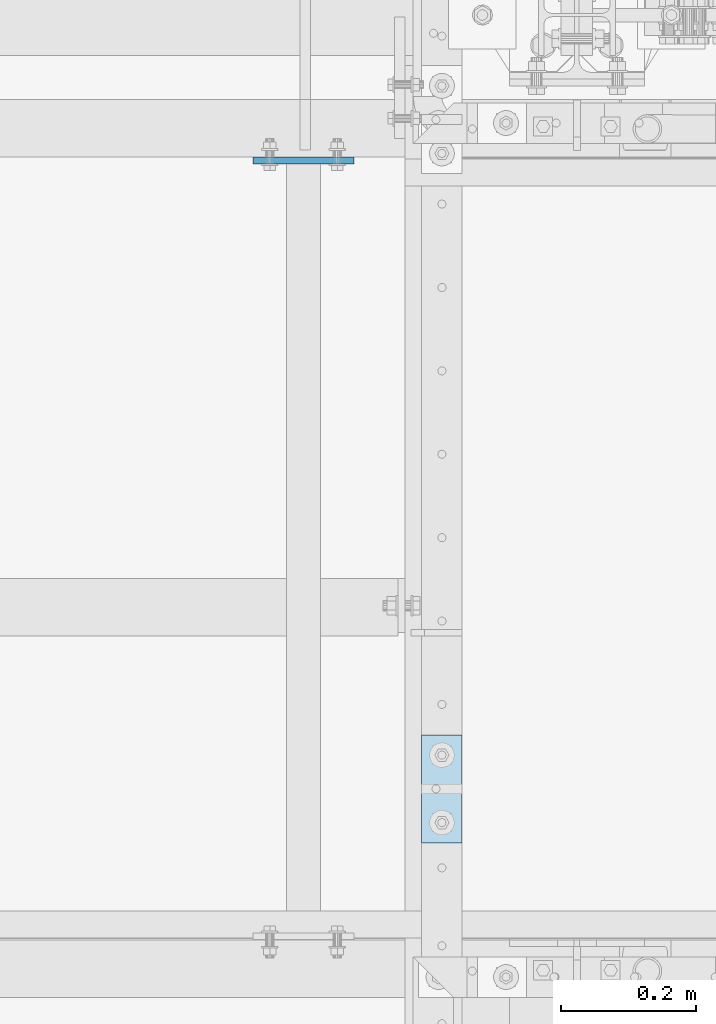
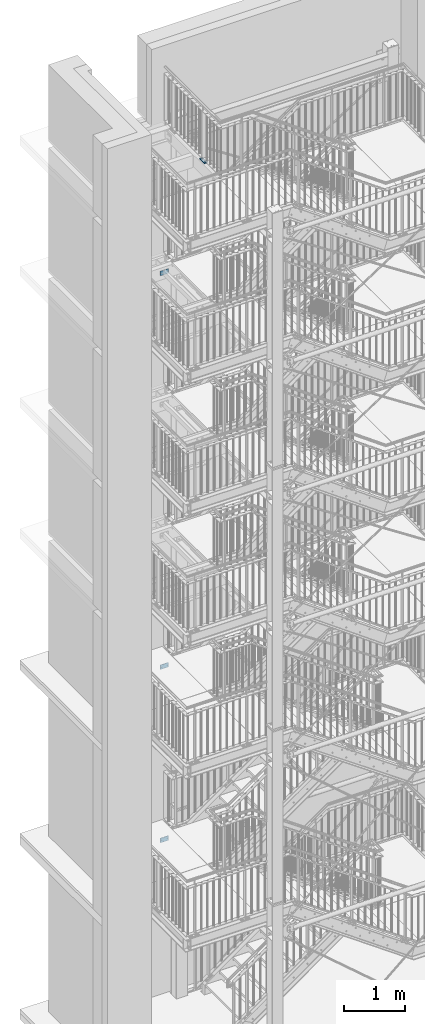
# One storey, part 177 of 817: 4 plates, 14 openings.
"""IFC2X3 building model written with IfcOpenShell, lengths in millimetres."""

from ifc_helpers import new_model, entity, si_unit, converted_unit, point, frame, frame_2d, origin, origin_with_axes, origin_2d_with_axis, place, context, project, spatial, polyline, circle_curve, line_curve, trimmed, segment, composite_curve, circle, outline, extrude, material, layer, layer_set, element, save


model = new_model("IFC2X3")

# Units and contexts
model_context = context("Model", 3, precision=1e-09, world=origin_with_axes())
ifc_project = project(units=[si_unit("LENGTHUNIT", "METRE", prefix="MILLI"), si_unit("AREAUNIT", "SQUARE_METRE"), si_unit("VOLUMEUNIT", "CUBIC_METRE"), converted_unit("PLANEANGLEUNIT", "DEGREE", entity("IfcPlaneAngleMeasure", 0.01745329), si_unit("PLANEANGLEUNIT", "RADIAN"), dimensions=[0, 0, 0, 0, 0, 0, 0])], contexts=[model_context])

# Site, building, storey
site_placement = place(None, origin_with_axes())
site = spatial("IfcSite", under=ifc_project, at=site_placement, Name="Cnopf'sche Kinderklinik", CompositionType="ELEMENT")
building_placement = place(site_placement, origin_with_axes())
building = spatial("IfcBuilding", under=site, at=building_placement, Name="Struktur 1", CompositionType="ELEMENT")
storey_placement = place(building_placement, origin_with_axes())
storey = spatial("IfcBuildingStorey", under=building, at=storey_placement, Name="Default Storey", CompositionType="ELEMENT", Elevation=0.0)

# Plate, openings
ifc_material = material(Name="S235JR")
ifc_layer_1 = layer(ifc_material, 10.0)
ifc_layer_set_1 = layer_set([ifc_layer_1], Name="S235JR")
plate_1_placement = place(None, frame((4451.713402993, 7306.236971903, 7220.0), z_axis=(0.0, -1.0, 0.0), x_axis=(1.0, 0.0, 0.0)))
plate_1 = element("IfcPlate", 1, at=plate_1_placement, inside=storey, material=ifc_layer_set_1, Name="-", ObjectType="-", context=model_context, shape_type="SweptSolid", body=[
    extrude(outline(polyline([(-75.0, -45.0), (75.0, -45.0), (75.0, 45.0), (-75.0, 45.0), (-75.0, -45.0)])), origin_with_axes(), (0.0, 0.0, 1.0), 10.0),
])
opening_1_placement = place(plate_1_placement, frame((-10.5, -33.0, -0.5), z_axis=(0.0, 0.0, 1.0), x_axis=(0.0, -1.0, 0.0)))
element("IfcOpeningElement", 2, at=opening_1_placement, cuts=plate_1, ObjectType="Opening", context=model_context, shape_type="SweptSolid", body=[
    extrude(circle(Radius=6.001, at=origin_2d_with_axis()), origin(), (0.0, 0.0, 1.0), 11.0),
])
opening_2_placement = place(plate_1_placement, frame((-10.5, 33.0, -0.5), z_axis=(0.0, 0.0, 1.0), x_axis=(0.0, -1.0, 0.0)))
element("IfcOpeningElement", 3, at=opening_2_placement, cuts=plate_1, ObjectType="Opening", context=model_context, shape_type="SweptSolid", body=[
    extrude(circle(Radius=6.001, at=origin_2d_with_axis()), origin(), (0.0, 0.0, 1.0), 11.0),
])
opening_3_placement = place(plate_1_placement, frame((0.0, 0.0, -0.5), z_axis=(0.0, 0.0, 1.0), x_axis=(1.0, 0.0, 0.0)))
element("IfcOpeningElement", 4, at=opening_3_placement, cuts=plate_1, ObjectType="Opening", context=model_context, shape_type="SweptSolid", body=[
    extrude(circle(Radius=7.001, at=frame_2d((50.0, 0.0), x_axis=(1.0, 0.0))), origin(), (0.0, 0.0, 1.0), 11.0),
])
opening_4_placement = place(plate_1_placement, frame((0.0, 0.0, -0.5), z_axis=(0.0, 0.0, 1.0), x_axis=(1.0, 0.0, 0.0)))
element("IfcOpeningElement", 5, at=opening_4_placement, cuts=plate_1, ObjectType="Opening", context=model_context, shape_type="SweptSolid", body=[
    extrude(circle(Radius=7.001, at=frame_2d((-50.0, 0.0), x_axis=(1.0, 0.0))), origin(), (0.0, 0.0, 1.0), 11.0),
])

plate_2_placement = place(None, frame((4451.713402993, 7306.236971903, 3747.0), z_axis=(0.0, -1.0, 0.0), x_axis=(1.0, 0.0, 0.0)))
plate_2 = element("IfcPlate", 6, at=plate_2_placement, inside=storey, material=ifc_layer_set_1, Name="-", ObjectType="-", context=model_context, shape_type="SweptSolid", body=[
    extrude(outline(polyline([(-75.0, -45.0), (75.0, -45.0), (75.0, 45.0), (-75.0, 45.0), (-75.0, -45.0)])), origin_with_axes(), (0.0, 0.0, 1.0), 10.0),
])
opening_5_placement = place(plate_2_placement, frame((-10.5, -33.0, -0.5), z_axis=(0.0, 0.0, 1.0), x_axis=(0.0, -1.0, 0.0)))
element("IfcOpeningElement", 7, at=opening_5_placement, cuts=plate_2, ObjectType="Opening", context=model_context, shape_type="SweptSolid", body=[
    extrude(circle(Radius=6.001, at=origin_2d_with_axis()), origin(), (0.0, 0.0, 1.0), 11.0),
])
opening_6_placement = place(plate_2_placement, frame((-10.5, 33.0, -0.5), z_axis=(0.0, 0.0, 1.0), x_axis=(0.0, -1.0, 0.0)))
element("IfcOpeningElement", 8, at=opening_6_placement, cuts=plate_2, ObjectType="Opening", context=model_context, shape_type="SweptSolid", body=[
    extrude(circle(Radius=6.001, at=origin_2d_with_axis()), origin(), (0.0, 0.0, 1.0), 11.0),
])
opening_7_placement = place(plate_2_placement, frame((0.0, 0.0, -0.5), z_axis=(0.0, 0.0, 1.0), x_axis=(1.0, 0.0, 0.0)))
element("IfcOpeningElement", 9, at=opening_7_placement, cuts=plate_2, ObjectType="Opening", context=model_context, shape_type="SweptSolid", body=[
    extrude(circle(Radius=7.001, at=frame_2d((50.0, 0.0), x_axis=(1.0, 0.0))), origin(), (0.0, 0.0, 1.0), 11.0),
])
opening_8_placement = place(plate_2_placement, frame((0.0, 0.0, -0.5), z_axis=(0.0, 0.0, 1.0), x_axis=(1.0, 0.0, 0.0)))
element("IfcOpeningElement", 10, at=opening_8_placement, cuts=plate_2, ObjectType="Opening", context=model_context, shape_type="SweptSolid", body=[
    extrude(circle(Radius=7.001, at=frame_2d((-50.0, 0.0), x_axis=(1.0, 0.0))), origin(), (0.0, 0.0, 1.0), 11.0),
])

ifc_layer_2 = layer(ifc_material, 20.0)
ifc_layer_set_2 = layer_set([ifc_layer_2], Name="S235JR")
plate_3_placement = place(None, frame((4626.713402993, 6450.486721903, 17834.0), z_axis=(0.0, 0.0, 1.0), x_axis=(0.0, -1.0, 0.0)))
plate_3 = element("IfcPlate", 11, at=plate_3_placement, inside=storey, material=ifc_layer_set_2, Name="Plate#503", ObjectType="Plate#503", context=model_context, shape_type="SweptSolid", body=[
    extrude(outline(polyline([(0.0, 0.0), (160.0, 0.0), (160.0, 60.0), (0.0, 60.0), (0.0, 0.0)])), origin_with_axes(), (0.0, 0.0, 1.0), 20.0),
])
opening_9_placement = place(plate_3_placement, frame((38.0, 37.001, 20.5), z_axis=(0.0, 0.0, 1.0), x_axis=(-1.0, 0.0, 0.0)))
element("IfcOpeningElement", 12, at=opening_9_placement, cuts=plate_3, ObjectType="Opening", context=model_context, shape_type="SweptSolid", body=[
    extrude(outline(composite_curve([segment(trimmed(line_curve((0.0, 0.0), (1.0, 0.0), 16.0), [point((0.0, 0.0))], [point((16.0, 0.0))], True, "CARTESIAN"), True, "CONTINUOUS"), segment(trimmed(circle_curve(frame_2d((16.0, 7.001), x_axis=(1.0, 0.0)), 7.001), [point((16.0, 0.0))], [point((16.0, 14.002))], True, "CARTESIAN"), True, "CONTINUOUS"), segment(trimmed(line_curve((16.0, 14.002), (-1.0, 0.0), 16.0), [point((16.0, 14.002))], [point((0.0, 14.002))], True, "CARTESIAN"), True, "CONTINUOUS"), segment(trimmed(circle_curve(frame_2d((0.0, 7.001), x_axis=(1.0, 0.0)), 7.001), [point((0.0, 14.002))], [point((0.0, 0.0))], True, "CARTESIAN"), True, "CONTINUOUS")], self_intersect=False)), origin(), (0.0, 0.0, -1.0), 21.0),
])
opening_10_placement = place(plate_3_placement, frame((138.0, 37.001, 20.5), z_axis=(0.0, 0.0, 1.0), x_axis=(-1.0, 0.0, 0.0)))
element("IfcOpeningElement", 13, at=opening_10_placement, cuts=plate_3, ObjectType="Opening", context=model_context, shape_type="SweptSolid", body=[
    extrude(outline(composite_curve([segment(trimmed(line_curve((0.0, 0.0), (1.0, 0.0), 16.0), [point((0.0, 0.0))], [point((16.0, 0.0))], True, "CARTESIAN"), True, "CONTINUOUS"), segment(trimmed(circle_curve(frame_2d((16.0, 7.001), x_axis=(1.0, 0.0)), 7.001), [point((16.0, 0.0))], [point((16.0, 14.002))], True, "CARTESIAN"), True, "CONTINUOUS"), segment(trimmed(line_curve((16.0, 14.002), (-1.0, 0.0), 16.0), [point((16.0, 14.002))], [point((0.0, 14.002))], True, "CARTESIAN"), True, "CONTINUOUS"), segment(trimmed(circle_curve(frame_2d((0.0, 7.001), x_axis=(1.0, 0.0)), 7.001), [point((0.0, 14.002))], [point((0.0, 0.0))], True, "CARTESIAN"), True, "CONTINUOUS")], self_intersect=False)), origin(), (0.0, 0.0, -1.0), 21.0),
])

plate_4_placement = place(None, frame((4451.713402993, 7306.236971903, 15114.0), z_axis=(0.0, -1.0, 0.0), x_axis=(1.0, 0.0, 0.0)))
plate_4 = element("IfcPlate", 14, at=plate_4_placement, inside=storey, material=ifc_layer_set_1, Name="-", ObjectType="-", context=model_context, shape_type="SweptSolid", body=[
    extrude(outline(polyline([(-75.0, -45.0), (75.0, -45.0), (75.0, 45.0), (-75.0, 45.0), (-75.0, -45.0)])), origin_with_axes(), (0.0, 0.0, 1.0), 10.0),
])
opening_11_placement = place(plate_4_placement, frame((-10.5, -33.0, -0.5), z_axis=(0.0, 0.0, 1.0), x_axis=(0.0, -1.0, 0.0)))
element("IfcOpeningElement", 15, at=opening_11_placement, cuts=plate_4, ObjectType="Opening", context=model_context, shape_type="SweptSolid", body=[
    extrude(circle(Radius=6.001, at=origin_2d_with_axis()), origin(), (0.0, 0.0, 1.0), 11.0),
])
opening_12_placement = place(plate_4_placement, frame((-10.5, 33.0, -0.5), z_axis=(0.0, 0.0, 1.0), x_axis=(0.0, -1.0, 0.0)))
element("IfcOpeningElement", 16, at=opening_12_placement, cuts=plate_4, ObjectType="Opening", context=model_context, shape_type="SweptSolid", body=[
    extrude(circle(Radius=6.001, at=origin_2d_with_axis()), origin(), (0.0, 0.0, 1.0), 11.0),
])
opening_13_placement = place(plate_4_placement, frame((0.0, 0.0, -0.5), z_axis=(0.0, 0.0, 1.0), x_axis=(1.0, 0.0, 0.0)))
element("IfcOpeningElement", 17, at=opening_13_placement, cuts=plate_4, ObjectType="Opening", context=model_context, shape_type="SweptSolid", body=[
    extrude(circle(Radius=7.001, at=frame_2d((50.0, 0.0), x_axis=(1.0, 0.0))), origin(), (0.0, 0.0, 1.0), 11.0),
])
opening_14_placement = place(plate_4_placement, frame((0.0, 0.0, -0.5), z_axis=(0.0, 0.0, 1.0), x_axis=(1.0, 0.0, 0.0)))
element("IfcOpeningElement", 18, at=opening_14_placement, cuts=plate_4, ObjectType="Opening", context=model_context, shape_type="SweptSolid", body=[
    extrude(circle(Radius=7.001, at=frame_2d((-50.0, 0.0), x_axis=(1.0, 0.0))), origin(), (0.0, 0.0, 1.0), 11.0),
])

save(model, "model.ifc")
